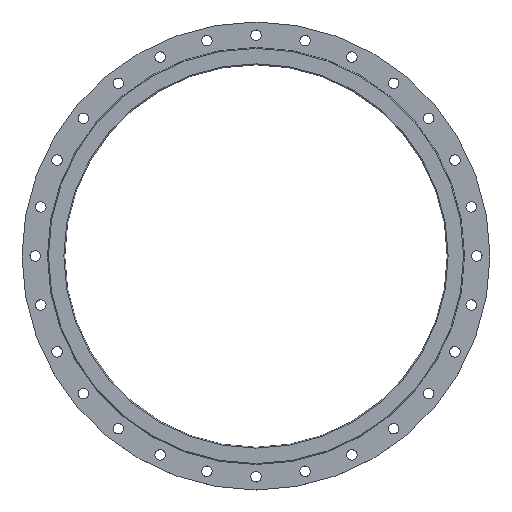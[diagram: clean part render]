
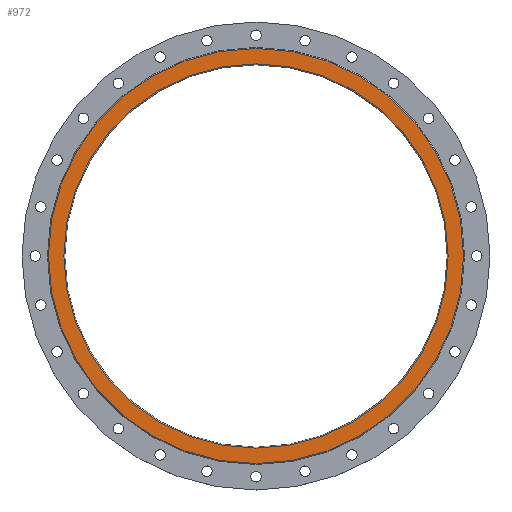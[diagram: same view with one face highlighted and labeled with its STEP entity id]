
A CAD part, top view. The second image highlights one B-rep face of the part: STEP entity #972.
In plain terms, the highlighted planar face has unit normal (0, 0, 1).
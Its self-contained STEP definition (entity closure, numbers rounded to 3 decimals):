
#49=FACE_BOUND('',#185,.T.);
#81=PLANE('',#1126);
#116=FACE_OUTER_BOUND('',#184,.T.);
#184=EDGE_LOOP('',(#849,#850));
#185=EDGE_LOOP('',(#851));
#376=CIRCLE('',#1117,652.);
#377=CIRCLE('',#1118,652.);
#378=CIRCLE('',#1120,603.6);
#481=VERTEX_POINT('',#1701);
#482=VERTEX_POINT('',#1702);
#483=VERTEX_POINT('',#1707);
#612=EDGE_CURVE('',#481,#482,#376,.T.);
#613=EDGE_CURVE('',#482,#481,#377,.T.);
#615=EDGE_CURVE('',#483,#483,#378,.T.);
#849=ORIENTED_EDGE('',*,*,#612,.T.);
#850=ORIENTED_EDGE('',*,*,#613,.T.);
#851=ORIENTED_EDGE('',*,*,#615,.F.);
#972=ADVANCED_FACE('',(#116,#49),#81,.T.);
#1117=AXIS2_PLACEMENT_3D('',#1703,#1409,#1410);
#1118=AXIS2_PLACEMENT_3D('',#1704,#1411,#1412);
#1120=AXIS2_PLACEMENT_3D('',#1708,#1416,#1417);
#1126=AXIS2_PLACEMENT_3D('',#1718,#1429,#1430);
#1409=DIRECTION('center_axis',(0.,0.,1.));
#1410=DIRECTION('ref_axis',(1.,0.,0.));
#1411=DIRECTION('center_axis',(0.,0.,1.));
#1412=DIRECTION('ref_axis',(1.,0.,0.));
#1416=DIRECTION('center_axis',(0.,0.,1.));
#1417=DIRECTION('ref_axis',(-1.,0.,0.));
#1429=DIRECTION('center_axis',(0.,0.,1.));
#1430=DIRECTION('ref_axis',(1.,0.,0.));
#1701=CARTESIAN_POINT('',(652.,0.,0.));
#1702=CARTESIAN_POINT('',(-652.,0.,0.));
#1703=CARTESIAN_POINT('Origin',(0.,0.,0.));
#1704=CARTESIAN_POINT('Origin',(0.,0.,0.));
#1707=CARTESIAN_POINT('',(603.6,0.,0.));
#1708=CARTESIAN_POINT('Origin',(0.,0.,0.));
#1718=CARTESIAN_POINT('Origin',(0.,0.,0.));
